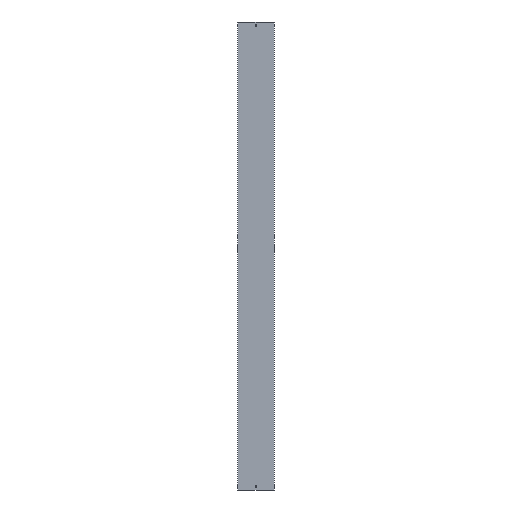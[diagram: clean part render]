
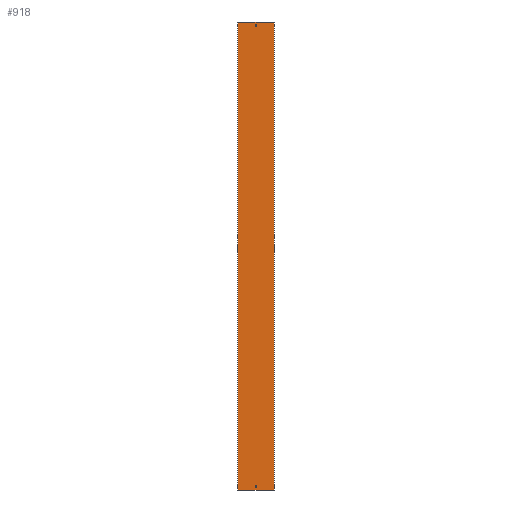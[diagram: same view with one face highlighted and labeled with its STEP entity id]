
A CAD part, front view. The second image highlights one B-rep face of the part: STEP entity #918.
In plain terms, the highlighted planar face has unit normal (0, -1, 0).
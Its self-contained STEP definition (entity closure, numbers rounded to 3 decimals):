
#6 = DIRECTION ( 'NONE',  ( 1., 0., 0. ) ) ;
#7 = LINE ( 'NONE', #915, #1253 ) ;
#17 = LINE ( 'NONE', #650, #1355 ) ;
#30 = VECTOR ( 'NONE', #141, 1000. ) ;
#47 = VERTEX_POINT ( 'NONE', #1183 ) ;
#57 = EDGE_CURVE ( 'NONE', #47, #1078, #17, .T. ) ;
#62 = VERTEX_POINT ( 'NONE', #1034 ) ;
#74 = ORIENTED_EDGE ( 'NONE', *, *, #1054, .F. ) ;
#78 = EDGE_CURVE ( 'NONE', #636, #648, #899, .T. ) ;
#89 = DIRECTION ( 'NONE',  ( 0., 0., -1. ) ) ;
#109 = EDGE_CURVE ( 'NONE', #594, #751, #1424, .T. ) ;
#114 = ORIENTED_EDGE ( 'NONE', *, *, #57, .F. ) ;
#124 = CARTESIAN_POINT ( 'NONE',  ( 3.25, 0., 988. ) ) ;
#134 = CARTESIAN_POINT ( 'NONE',  ( 3.25, 0., -988. ) ) ;
#137 = CARTESIAN_POINT ( 'NONE',  ( -3.25, 0., -979. ) ) ;
#140 = CARTESIAN_POINT ( 'NONE',  ( 3.25, 0., -979. ) ) ;
#141 = DIRECTION ( 'NONE',  ( 0., 0., -1. ) ) ;
#171 = CARTESIAN_POINT ( 'NONE',  ( -3.25, 0., 979. ) ) ;
#189 = EDGE_CURVE ( 'NONE', #945, #47, #428, .T. ) ;
#209 = ORIENTED_EDGE ( 'NONE', *, *, #1140, .T. ) ;
#230 = EDGE_CURVE ( 'NONE', #706, #1392, #311, .T. ) ;
#261 = DIRECTION ( 'NONE',  ( -1., 0., 0. ) ) ;
#284 = EDGE_CURVE ( 'NONE', #1078, #62, #1397, .T. ) ;
#298 = VECTOR ( 'NONE', #1237, 1000. ) ;
#303 = CARTESIAN_POINT ( 'NONE',  ( -77., 0., 1000. ) ) ;
#307 = LINE ( 'NONE', #690, #601 ) ;
#311 = LINE ( 'NONE', #836, #1629 ) ;
#368 = CARTESIAN_POINT ( 'NONE',  ( -77., 0., 1000. ) ) ;
#380 = EDGE_LOOP ( 'NONE', ( #1257, #708, #852, #805 ) ) ;
#396 = EDGE_CURVE ( 'NONE', #1392, #459, #307, .T. ) ;
#428 = LINE ( 'NONE', #171, #298 ) ;
#454 = CARTESIAN_POINT ( 'NONE',  ( -77., 0., 1000. ) ) ;
#459 = VERTEX_POINT ( 'NONE', #1615 ) ;
#489 = EDGE_LOOP ( 'NONE', ( #1185, #74, #1111, #114 ) ) ;
#513 = CARTESIAN_POINT ( 'NONE',  ( -3.25, 0., 988. ) ) ;
#539 = LINE ( 'NONE', #1432, #1223 ) ;
#547 = DIRECTION ( 'NONE',  ( 0., 0., 1. ) ) ;
#594 = VERTEX_POINT ( 'NONE', #1260 ) ;
#601 = VECTOR ( 'NONE', #1206, 1000. ) ;
#627 = VECTOR ( 'NONE', #261, 1000. ) ;
#636 = VERTEX_POINT ( 'NONE', #1441 ) ;
#648 = VERTEX_POINT ( 'NONE', #140 ) ;
#650 = CARTESIAN_POINT ( 'NONE',  ( 3.25, 0., 988. ) ) ;
#651 = DIRECTION ( 'NONE',  ( 0., 0., -1. ) ) ;
#660 = EDGE_CURVE ( 'NONE', #751, #636, #539, .T. ) ;
#690 = CARTESIAN_POINT ( 'NONE',  ( 77., 0., 1000. ) ) ;
#703 = DIRECTION ( 'NONE',  ( 1., 0., 0. ) ) ;
#706 = VERTEX_POINT ( 'NONE', #454 ) ;
#708 = ORIENTED_EDGE ( 'NONE', *, *, #78, .T. ) ;
#742 = VECTOR ( 'NONE', #651, 1000. ) ;
#751 = VERTEX_POINT ( 'NONE', #1495 ) ;
#776 = ORIENTED_EDGE ( 'NONE', *, *, #230, .F. ) ;
#792 = LINE ( 'NONE', #134, #30 ) ;
#797 = CARTESIAN_POINT ( 'NONE',  ( 77., 0., 1000. ) ) ;
#799 = CARTESIAN_POINT ( 'NONE',  ( -3.25, 0., -988. ) ) ;
#805 = ORIENTED_EDGE ( 'NONE', *, *, #109, .T. ) ;
#836 = CARTESIAN_POINT ( 'NONE',  ( -77., 0., 1000. ) ) ;
#852 = ORIENTED_EDGE ( 'NONE', *, *, #1482, .T. ) ;
#856 = CARTESIAN_POINT ( 'NONE',  ( -3.25, 0., 988. ) ) ;
#866 = PLANE ( 'NONE',  #926 ) ;
#899 = LINE ( 'NONE', #137, #1494 ) ;
#910 = CARTESIAN_POINT ( 'NONE',  ( -77., 0., -1000. ) ) ;
#915 = CARTESIAN_POINT ( 'NONE',  ( -77., 0., -1000. ) ) ;
#918 = ADVANCED_FACE ( 'NONE', ( #1535, #1630, #998 ), #866, .F. ) ;
#926 = AXIS2_PLACEMENT_3D ( 'NONE', #368, #1373, #1265 ) ;
#945 = VERTEX_POINT ( 'NONE', #1138 ) ;
#996 = EDGE_LOOP ( 'NONE', ( #1406, #1236, #776, #209 ) ) ;
#998 = FACE_BOUND ( 'NONE', #380, .T. ) ;
#1012 = VECTOR ( 'NONE', #89, 1000. ) ;
#1033 = VERTEX_POINT ( 'NONE', #910 ) ;
#1034 = CARTESIAN_POINT ( 'NONE',  ( -3.25, 0., 988. ) ) ;
#1038 = EDGE_CURVE ( 'NONE', #1033, #459, #7, .T. ) ;
#1054 = EDGE_CURVE ( 'NONE', #62, #945, #1672, .T. ) ;
#1078 = VERTEX_POINT ( 'NONE', #124 ) ;
#1111 = ORIENTED_EDGE ( 'NONE', *, *, #284, .F. ) ;
#1138 = CARTESIAN_POINT ( 'NONE',  ( -3.25, 0., 979. ) ) ;
#1140 = EDGE_CURVE ( 'NONE', #706, #1033, #1191, .T. ) ;
#1181 = DIRECTION ( 'NONE',  ( 0., 0., 1. ) ) ;
#1183 = CARTESIAN_POINT ( 'NONE',  ( 3.25, 0., 979. ) ) ;
#1184 = DIRECTION ( 'NONE',  ( 1., 0., 0. ) ) ;
#1185 = ORIENTED_EDGE ( 'NONE', *, *, #189, .F. ) ;
#1191 = LINE ( 'NONE', #303, #1012 ) ;
#1206 = DIRECTION ( 'NONE',  ( 0., 0., -1. ) ) ;
#1223 = VECTOR ( 'NONE', #1181, 1000. ) ;
#1236 = ORIENTED_EDGE ( 'NONE', *, *, #396, .F. ) ;
#1237 = DIRECTION ( 'NONE',  ( 1., 0., 0. ) ) ;
#1253 = VECTOR ( 'NONE', #1184, 1000. ) ;
#1257 = ORIENTED_EDGE ( 'NONE', *, *, #660, .T. ) ;
#1260 = CARTESIAN_POINT ( 'NONE',  ( 3.25, 0., -988. ) ) ;
#1265 = DIRECTION ( 'NONE',  ( -1., 0., 0. ) ) ;
#1355 = VECTOR ( 'NONE', #547, 1000. ) ;
#1373 = DIRECTION ( 'NONE',  ( 0., 1., 0. ) ) ;
#1392 = VERTEX_POINT ( 'NONE', #797 ) ;
#1397 = LINE ( 'NONE', #856, #1546 ) ;
#1406 = ORIENTED_EDGE ( 'NONE', *, *, #1038, .T. ) ;
#1424 = LINE ( 'NONE', #799, #627 ) ;
#1432 = CARTESIAN_POINT ( 'NONE',  ( -3.25, 0., -988. ) ) ;
#1441 = CARTESIAN_POINT ( 'NONE',  ( -3.25, 0., -979. ) ) ;
#1482 = EDGE_CURVE ( 'NONE', #648, #594, #792, .T. ) ;
#1494 = VECTOR ( 'NONE', #6, 1000. ) ;
#1495 = CARTESIAN_POINT ( 'NONE',  ( -3.25, 0., -988. ) ) ;
#1502 = DIRECTION ( 'NONE',  ( -1., 0., 0. ) ) ;
#1535 = FACE_OUTER_BOUND ( 'NONE', #996, .T. ) ;
#1546 = VECTOR ( 'NONE', #1502, 1000. ) ;
#1615 = CARTESIAN_POINT ( 'NONE',  ( 77., 0., -1000. ) ) ;
#1629 = VECTOR ( 'NONE', #703, 1000. ) ;
#1630 = FACE_BOUND ( 'NONE', #489, .T. ) ;
#1672 = LINE ( 'NONE', #513, #742 ) ;
